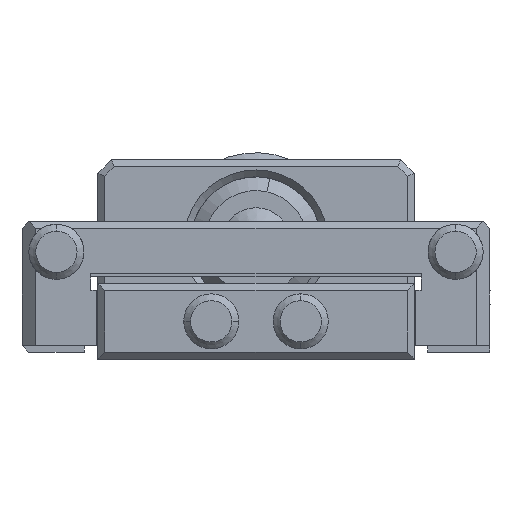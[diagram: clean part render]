
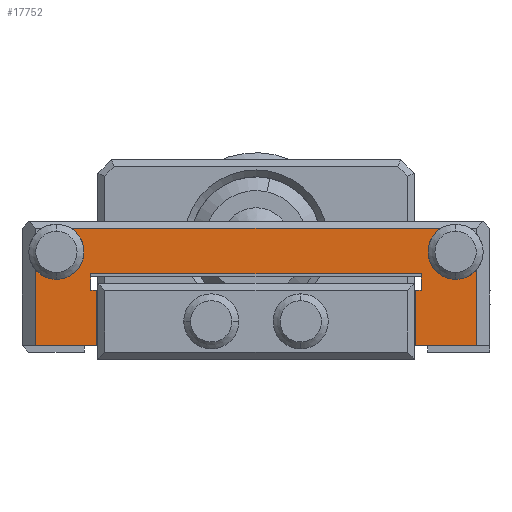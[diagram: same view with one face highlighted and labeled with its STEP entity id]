
A CAD part, left-side view. The second image highlights one B-rep face of the part: STEP entity #17752.
In plain terms, the highlighted planar face has unit normal (-1, 0, 0).
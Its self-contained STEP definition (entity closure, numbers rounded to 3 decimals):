
#302 = VERTEX_POINT ( 'NONE', #1835 ) ;
#356 = VECTOR ( 'NONE', #23762, 1000. ) ;
#406 = VECTOR ( 'NONE', #18760, 1000. ) ;
#450 = CARTESIAN_POINT ( 'NONE',  ( -17., -16., 0. ) ) ;
#493 = VERTEX_POINT ( 'NONE', #16445 ) ;
#616 = DIRECTION ( 'NONE',  ( -1., 0., 0. ) ) ;
#705 = VECTOR ( 'NONE', #2590, 1000. ) ;
#786 = CARTESIAN_POINT ( 'NONE',  ( -17., -12., 4.5 ) ) ;
#809 = AXIS2_PLACEMENT_3D ( 'NONE', #26203, #21442, #14580 ) ;
#939 = VECTOR ( 'NONE', #963, 1000. ) ;
#963 = DIRECTION ( 'NONE',  ( 0., 1., 0. ) ) ;
#1152 = DIRECTION ( 'NONE',  ( 0., 1., 0. ) ) ;
#1424 = VERTEX_POINT ( 'NONE', #24230 ) ;
#1539 = DIRECTION ( 'NONE',  ( 0., -1., 0. ) ) ;
#1672 = LINE ( 'NONE', #12583, #939 ) ;
#1825 = EDGE_CURVE ( 'NONE', #16490, #9752, #17476, .T. ) ;
#1835 = CARTESIAN_POINT ( 'NONE',  ( -17., 12., 5.7 ) ) ;
#2009 = CARTESIAN_POINT ( 'NONE',  ( -17., 11.6, 0.5 ) ) ;
#2533 = EDGE_CURVE ( 'NONE', #302, #1424, #4370, .T. ) ;
#2590 = DIRECTION ( 'NONE',  ( 0., 0., -1. ) ) ;
#2893 = ORIENTED_EDGE ( 'NONE', *, *, #13485, .F. ) ;
#2973 = VECTOR ( 'NONE', #17711, 1000. ) ;
#3018 = LINE ( 'NONE', #29338, #22296 ) ;
#3471 = EDGE_CURVE ( 'NONE', #14901, #302, #11239, .T. ) ;
#3818 = ORIENTED_EDGE ( 'NONE', *, *, #7978, .F. ) ;
#4370 = LINE ( 'NONE', #16525, #705 ) ;
#5023 = LINE ( 'NONE', #17435, #15184 ) ;
#5025 = CIRCLE ( 'NONE', #7256, 2. ) ;
#5030 = CARTESIAN_POINT ( 'NONE',  ( -17., -12., 0. ) ) ;
#5105 = CIRCLE ( 'NONE', #26320, 2. ) ;
#5156 = CARTESIAN_POINT ( 'NONE',  ( -17., -13.446, 9. ) ) ;
#5837 = LINE ( 'NONE', #5030, #356 ) ;
#5893 = VERTEX_POINT ( 'NONE', #786 ) ;
#6059 = CARTESIAN_POINT ( 'NONE',  ( -17., 16., 0. ) ) ;
#6458 = CARTESIAN_POINT ( 'NONE',  ( -17., -11.6, 0. ) ) ;
#6653 = DIRECTION ( 'NONE',  ( 1., 0., 0. ) ) ;
#6752 = ORIENTED_EDGE ( 'NONE', *, *, #8447, .F. ) ;
#6834 = EDGE_CURVE ( 'NONE', #11217, #21813, #5025, .T. ) ;
#7256 = AXIS2_PLACEMENT_3D ( 'NONE', #7281, #616, #23760 ) ;
#7281 = CARTESIAN_POINT ( 'NONE',  ( -17., 14.5, 7.3 ) ) ;
#7318 = VECTOR ( 'NONE', #16682, 1000. ) ;
#7326 = FACE_OUTER_BOUND ( 'NONE', #20412, .T. ) ;
#7521 = CARTESIAN_POINT ( 'NONE',  ( -17., 14.5, 5.3 ) ) ;
#7978 = EDGE_CURVE ( 'NONE', #9752, #17642, #1672, .T. ) ;
#8057 = VECTOR ( 'NONE', #26437, 1000. ) ;
#8447 = EDGE_CURVE ( 'NONE', #1424, #9392, #3018, .T. ) ;
#8839 = VERTEX_POINT ( 'NONE', #29598 ) ;
#8877 = AXIS2_PLACEMENT_3D ( 'NONE', #20733, #6653, #23172 ) ;
#9141 = LINE ( 'NONE', #14378, #7318 ) ;
#9392 = VERTEX_POINT ( 'NONE', #10975 ) ;
#9752 = VERTEX_POINT ( 'NONE', #22572 ) ;
#10175 = DIRECTION ( 'NONE',  ( -1., 0., 0. ) ) ;
#10588 = ORIENTED_EDGE ( 'NONE', *, *, #29961, .F. ) ;
#10741 = EDGE_CURVE ( 'NONE', #27839, #8839, #20379, .T. ) ;
#10975 = CARTESIAN_POINT ( 'NONE',  ( -17., 11.6, 4.5 ) ) ;
#11217 = VERTEX_POINT ( 'NONE', #20997 ) ;
#11239 = LINE ( 'NONE', #17499, #27185 ) ;
#11958 = ORIENTED_EDGE ( 'NONE', *, *, #25847, .F. ) ;
#12282 = CARTESIAN_POINT ( 'NONE',  ( -17., 0., 9. ) ) ;
#12373 = ORIENTED_EDGE ( 'NONE', *, *, #2533, .F. ) ;
#12405 = ORIENTED_EDGE ( 'NONE', *, *, #15953, .F. ) ;
#12583 = CARTESIAN_POINT ( 'NONE',  ( -17., 0., 0.5 ) ) ;
#13171 = ORIENTED_EDGE ( 'NONE', *, *, #15811, .F. ) ;
#13485 = EDGE_CURVE ( 'NONE', #17642, #493, #29724, .T. ) ;
#13560 = ORIENTED_EDGE ( 'NONE', *, *, #18591, .F. ) ;
#13947 = EDGE_CURVE ( 'NONE', #21813, #8839, #22789, .T. ) ;
#14378 = CARTESIAN_POINT ( 'NONE',  ( -17., 11.6, 0. ) ) ;
#14580 = DIRECTION ( 'NONE',  ( 0., 0., -1. ) ) ;
#14889 = VERTEX_POINT ( 'NONE', #27407 ) ;
#14901 = VERTEX_POINT ( 'NONE', #18486 ) ;
#15184 = VECTOR ( 'NONE', #20174, 1000. ) ;
#15325 = CARTESIAN_POINT ( 'NONE',  ( -17., -14.5, 7.3 ) ) ;
#15377 = LINE ( 'NONE', #6059, #2973 ) ;
#15474 = CARTESIAN_POINT ( 'NONE',  ( -17., -11.6, 0.5 ) ) ;
#15811 = EDGE_CURVE ( 'NONE', #14889, #16490, #18665, .T. ) ;
#15953 = EDGE_CURVE ( 'NONE', #19804, #16601, #26229, .T. ) ;
#16445 = CARTESIAN_POINT ( 'NONE',  ( -17., -11.6, 4.5 ) ) ;
#16490 = VERTEX_POINT ( 'NONE', #20896 ) ;
#16525 = CARTESIAN_POINT ( 'NONE',  ( -17., 12., 0. ) ) ;
#16601 = VERTEX_POINT ( 'NONE', #17128 ) ;
#16682 = DIRECTION ( 'NONE',  ( 0., 0., -1. ) ) ;
#17128 = CARTESIAN_POINT ( 'NONE',  ( -17., 16., 0.5 ) ) ;
#17386 = VECTOR ( 'NONE', #22782, 1000. ) ;
#17435 = CARTESIAN_POINT ( 'NONE',  ( -17., -12., 4.5 ) ) ;
#17476 = LINE ( 'NONE', #450, #406 ) ;
#17499 = CARTESIAN_POINT ( 'NONE',  ( -17., 0., 5.7 ) ) ;
#17642 = VERTEX_POINT ( 'NONE', #15474 ) ;
#17711 = DIRECTION ( 'NONE',  ( 0., 0., 1. ) ) ;
#17752 = ADVANCED_FACE ( 'NONE', ( #7326 ), #25481, .F. ) ;
#18295 = AXIS2_PLACEMENT_3D ( 'NONE', #26250, #10175, #21806 ) ;
#18486 = CARTESIAN_POINT ( 'NONE',  ( -17., -12., 5.7 ) ) ;
#18591 = EDGE_CURVE ( 'NONE', #27839, #14889, #5105, .T. ) ;
#18665 = CIRCLE ( 'NONE', #809, 2. ) ;
#18760 = DIRECTION ( 'NONE',  ( 0., 0., -1. ) ) ;
#19179 = ORIENTED_EDGE ( 'NONE', *, *, #6834, .F. ) ;
#19804 = VERTEX_POINT ( 'NONE', #2009 ) ;
#20074 = DIRECTION ( 'NONE',  ( -1., 0., 0. ) ) ;
#20174 = DIRECTION ( 'NONE',  ( 0., -1., 0. ) ) ;
#20379 = LINE ( 'NONE', #12282, #8057 ) ;
#20412 = EDGE_LOOP ( 'NONE', ( #28248, #20625, #19179, #26693, #12405, #25844, #6752, #12373, #23276, #10588, #11958, #2893, #3818, #24115, #13171, #13560 ) ) ;
#20433 = CARTESIAN_POINT ( 'NONE',  ( -17., 0., 0.5 ) ) ;
#20455 = VECTOR ( 'NONE', #22772, 1000. ) ;
#20625 = ORIENTED_EDGE ( 'NONE', *, *, #13947, .F. ) ;
#20733 = CARTESIAN_POINT ( 'NONE',  ( -17., 0., 0. ) ) ;
#20896 = CARTESIAN_POINT ( 'NONE',  ( -17., -16., 5.977 ) ) ;
#20997 = CARTESIAN_POINT ( 'NONE',  ( -17., 16., 5.977 ) ) ;
#21442 = DIRECTION ( 'NONE',  ( -1., 0., 0. ) ) ;
#21806 = DIRECTION ( 'NONE',  ( 0., 0., -1. ) ) ;
#21813 = VERTEX_POINT ( 'NONE', #7521 ) ;
#22103 = DIRECTION ( 'NONE',  ( 0., 0., -1. ) ) ;
#22296 = VECTOR ( 'NONE', #1539, 1000. ) ;
#22572 = CARTESIAN_POINT ( 'NONE',  ( -17., -16., 0.5 ) ) ;
#22772 = DIRECTION ( 'NONE',  ( 0., 1., 0. ) ) ;
#22782 = DIRECTION ( 'NONE',  ( 0., 0., 1. ) ) ;
#22789 = CIRCLE ( 'NONE', #18295, 2. ) ;
#23172 = DIRECTION ( 'NONE',  ( 0., 0., -1. ) ) ;
#23276 = ORIENTED_EDGE ( 'NONE', *, *, #3471, .F. ) ;
#23638 = EDGE_CURVE ( 'NONE', #16601, #11217, #15377, .T. ) ;
#23760 = DIRECTION ( 'NONE',  ( 0., 0., -1. ) ) ;
#23762 = DIRECTION ( 'NONE',  ( 0., 0., 1. ) ) ;
#24115 = ORIENTED_EDGE ( 'NONE', *, *, #1825, .F. ) ;
#24230 = CARTESIAN_POINT ( 'NONE',  ( -17., 12., 4.5 ) ) ;
#25481 = PLANE ( 'NONE',  #8877 ) ;
#25844 = ORIENTED_EDGE ( 'NONE', *, *, #29970, .F. ) ;
#25847 = EDGE_CURVE ( 'NONE', #493, #5893, #5023, .T. ) ;
#26203 = CARTESIAN_POINT ( 'NONE',  ( -17., -14.5, 7.3 ) ) ;
#26229 = LINE ( 'NONE', #20433, #20455 ) ;
#26250 = CARTESIAN_POINT ( 'NONE',  ( -17., 14.5, 7.3 ) ) ;
#26320 = AXIS2_PLACEMENT_3D ( 'NONE', #15325, #20074, #22103 ) ;
#26437 = DIRECTION ( 'NONE',  ( 0., 1., 0. ) ) ;
#26693 = ORIENTED_EDGE ( 'NONE', *, *, #23638, .F. ) ;
#27185 = VECTOR ( 'NONE', #1152, 1000. ) ;
#27407 = CARTESIAN_POINT ( 'NONE',  ( -17., -14.5, 5.3 ) ) ;
#27839 = VERTEX_POINT ( 'NONE', #5156 ) ;
#28248 = ORIENTED_EDGE ( 'NONE', *, *, #10741, .T. ) ;
#29338 = CARTESIAN_POINT ( 'NONE',  ( -17., 12., 4.5 ) ) ;
#29598 = CARTESIAN_POINT ( 'NONE',  ( -17., 13.446, 9. ) ) ;
#29724 = LINE ( 'NONE', #6458, #17386 ) ;
#29961 = EDGE_CURVE ( 'NONE', #5893, #14901, #5837, .T. ) ;
#29970 = EDGE_CURVE ( 'NONE', #9392, #19804, #9141, .T. ) ;
